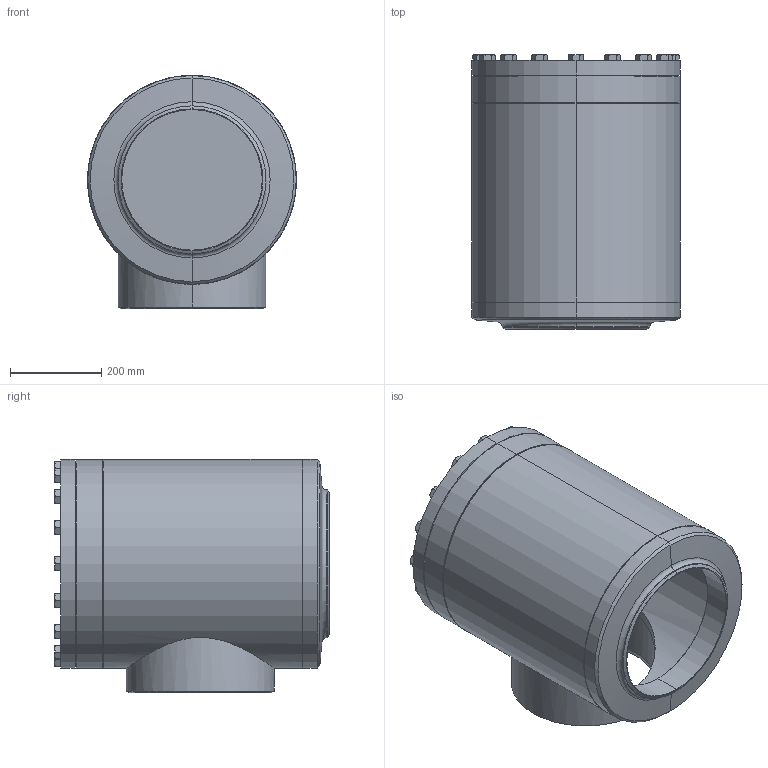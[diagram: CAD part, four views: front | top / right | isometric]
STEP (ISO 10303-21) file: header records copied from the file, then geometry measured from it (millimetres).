
FILE_DESCRIPTION (( 'STEP AP214' ), '1' );
FILE_NAME ('SS52400C25A5A30AA00_DN300_R1_PS25.STEP', '2010-06-16T12:45:05', ( 'Eckhard Grams' ), ( 'AWP Kälte Klima Armaturen GmbH' ), 'SwSTEP 2.0', 'SolidWorks 2002296', '' );
FILE_SCHEMA (( 'AUTOMOTIVE_DESIGN' ));
Length unit declared in the file: millimetre
Products named in the file (11): SS52400C25A5A30AA00_DN300_R1_PS25; Geh,kpl 26300B25-5030AA1_DN300_R1_Standard; Boden26300a-25_R1_Standard; Kopfstück26300-DN300_Standard; Rohrstutzen-A26300a-25_R1_Standard; Gehäuse26300-DN300_Standard; bead Geh,kpl 26300a-25-2_Standard; bead Geh,kpl 26300a-25-1_Standard; SS52300B25_Deck+Schr-DN300_Standard; Deckel52300B25-DN300_Standard; Sechskantschraube-DIN933_M20x 60
Assembly tree (25 placements, depth 3):
  SS52400C25A5A30AA00_DN300_R1_PS25
    SS52300B25_Deck+Schr-DN300_Standard
      Sechskantschraube-DIN933_M20x 60  x16
      Deckel52300B25-DN300_Standard
    Geh,kpl 26300B25-5030AA1_DN300_R1_Standard
      bead Geh,kpl 26300a-25-2_Standard
      bead Geh,kpl 26300a-25-1_Standard
      Boden26300a-25_R1_Standard
      Kopfstück26300-DN300_Standard
      Rohrstutzen-A26300a-25_R1_Standard
      Gehäuse26300-DN300_Standard
Bounding box: 457.44 x 600.5 x 510.75 mm (x, y, z)
Volume: 25201012.9 mm3; surface area: 2743452 mm2
Topology: 23 solids, 23 shells, 497 faces, 1064 edges, 630 vertices
Faces by surface type: cone 234, plane 160, cylinder 93, bspline 8, torus 2
Entity records: 6211 total; most frequent: CARTESIAN_POINT 2604, DIRECTION 654, ORIENTED_EDGE 568, AXIS2_PLACEMENT_3D 286, EDGE_CURVE 284, VERTEX_POINT 180, EDGE_LOOP 170, CIRCLE 142
